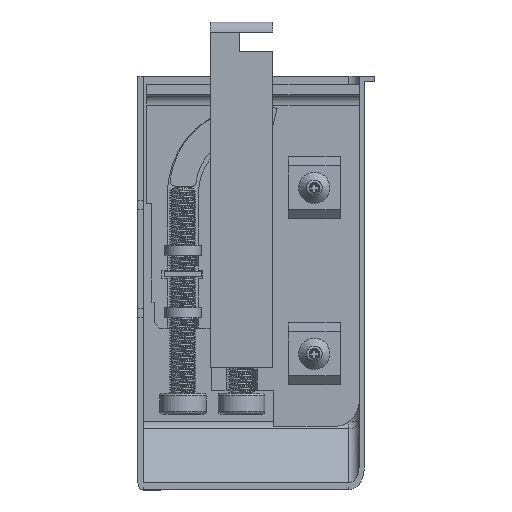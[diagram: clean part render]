
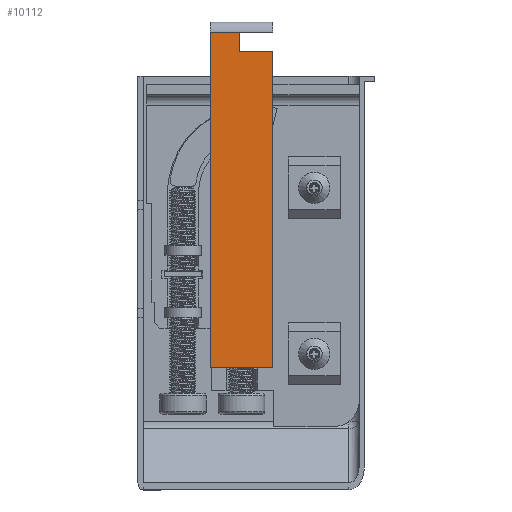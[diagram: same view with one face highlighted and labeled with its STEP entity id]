
A CAD part, left-side view. The second image highlights one B-rep face of the part: STEP entity #10112.
In plain terms, the highlighted planar face has unit normal (-1, 0, 0).
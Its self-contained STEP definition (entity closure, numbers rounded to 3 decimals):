
#602=LINE('',#15249,#1679);
#606=LINE('',#15259,#1683);
#623=LINE('',#15295,#1700);
#640=LINE('',#15343,#1717);
#645=LINE('',#15358,#1722);
#646=LINE('',#15360,#1723);
#1679=VECTOR('',#12125,10.);
#1683=VECTOR('',#12133,10.);
#1700=VECTOR('',#12164,10.);
#1717=VECTOR('',#12213,10.);
#1722=VECTOR('',#12228,10.);
#1723=VECTOR('',#12231,10.);
#2596=PLANE('',#10794);
#3097=FACE_OUTER_BOUND('',#3679,.T.);
#3679=EDGE_LOOP('',(#7690,#7691,#7692,#7693,#7694,#7695));
#4674=VERTEX_POINT('',#15246);
#4675=VERTEX_POINT('',#15248);
#4679=VERTEX_POINT('',#15258);
#4691=VERTEX_POINT('',#15294);
#4705=VERTEX_POINT('',#15340);
#4706=VERTEX_POINT('',#15342);
#5772=EDGE_CURVE('',#4675,#4674,#602,.T.);
#5777=EDGE_CURVE('',#4679,#4675,#606,.T.);
#5796=EDGE_CURVE('',#4679,#4691,#623,.T.);
#5820=EDGE_CURVE('',#4705,#4706,#640,.T.);
#5829=EDGE_CURVE('',#4705,#4691,#645,.T.);
#5830=EDGE_CURVE('',#4706,#4674,#646,.T.);
#7690=ORIENTED_EDGE('',*,*,#5772,.T.);
#7691=ORIENTED_EDGE('',*,*,#5830,.F.);
#7692=ORIENTED_EDGE('',*,*,#5820,.F.);
#7693=ORIENTED_EDGE('',*,*,#5829,.T.);
#7694=ORIENTED_EDGE('',*,*,#5796,.F.);
#7695=ORIENTED_EDGE('',*,*,#5777,.T.);
#10112=ADVANCED_FACE('',(#3097),#2596,.T.);
#10794=AXIS2_PLACEMENT_3D('',#15359,#12229,#12230);
#12125=DIRECTION('',(0.,0.,1.));
#12133=DIRECTION('',(0.,1.,0.));
#12164=DIRECTION('',(0.,0.,-1.));
#12213=DIRECTION('',(0.,0.,1.));
#12228=DIRECTION('',(0.,-1.,0.));
#12229=DIRECTION('center_axis',(-1.,0.,0.));
#12230=DIRECTION('ref_axis',(0.,0.,-1.));
#12231=DIRECTION('',(0.,-1.,0.));
#15246=CARTESIAN_POINT('',(-6.201,23.05,10.));
#15248=CARTESIAN_POINT('',(-6.201,23.05,6.305));
#15249=CARTESIAN_POINT('',(-6.201,23.05,8.152));
#15258=CARTESIAN_POINT('',(-6.201,16.674,6.305));
#15259=CARTESIAN_POINT('',(-6.201,19.674,6.305));
#15294=CARTESIAN_POINT('',(-6.201,16.674,-54.686));
#15295=CARTESIAN_POINT('',(-6.201,16.674,10.));
#15340=CARTESIAN_POINT('',(-6.201,28.674,-54.686));
#15342=CARTESIAN_POINT('',(-6.201,28.674,10.));
#15343=CARTESIAN_POINT('',(-6.201,28.674,10.));
#15358=CARTESIAN_POINT('',(-6.201,22.674,-54.686));
#15359=CARTESIAN_POINT('Origin',(-6.201,22.674,10.));
#15360=CARTESIAN_POINT('',(-6.201,22.674,10.));
